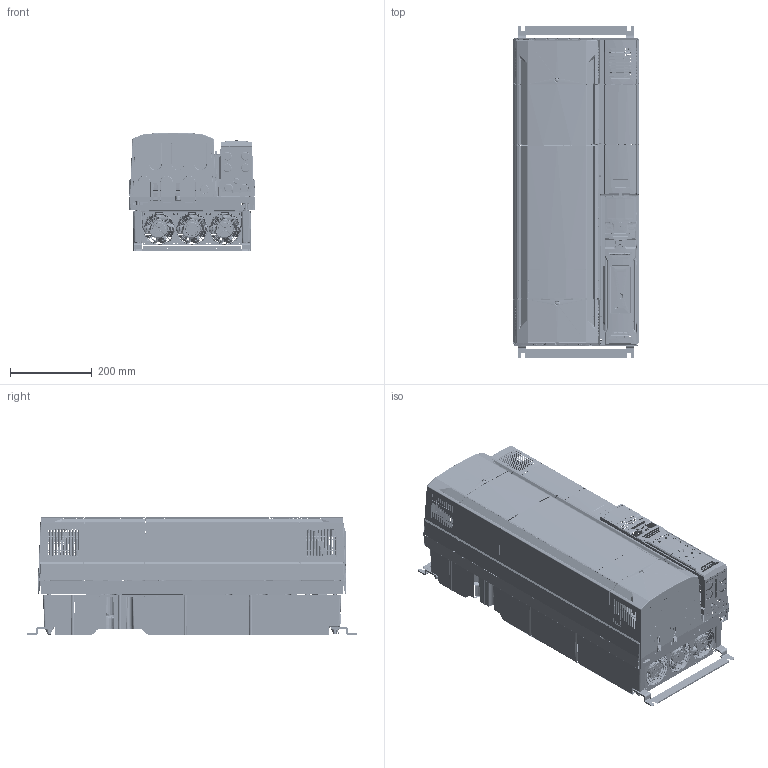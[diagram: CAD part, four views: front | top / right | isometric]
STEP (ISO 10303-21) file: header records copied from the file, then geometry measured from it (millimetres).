
FILE_DESCRIPTION((''),'2;1');
FILE_NAME('EXTERNAL_GT8-F11','2013-08-29T',('P94061'),(''),'PRO/ENGINEER BY PARAMETRIC TECHNOLOGY CORPORATION, 2011490','PRO/ENGINEER BY PARAMETRIC TECHNOLOGY CORPORATION, 2011490','');
FILE_SCHEMA(('CONFIG_CONTROL_DESIGN'));
Length unit declared in the file: millimetre
Products named in the file (1): EXTERNAL_GT8-F11
Bounding box: 310.02 x 811.61 x 290.1 mm (x, y, z)
Surface area: 2417769 mm2 (no closed solid volume)
Topology: 0 solids, 1142 shells, 3322 faces, 26753 edges, 24288 vertices
Faces by surface type: plane 1809, cylinder 804, cone 246, bspline 231, torus 118, extrusion 101, sphere 13
Entity records: 282564 total; most frequent: CARTESIAN_POINT 112128, ORIENTED_EDGE 29648, DIRECTION 27151, EDGE_CURVE 26747, VERTEX_POINT 24288, VECTOR 14879, LINE 14778, B_SPLINE_CURVE_WITH_KNOTS 8924
